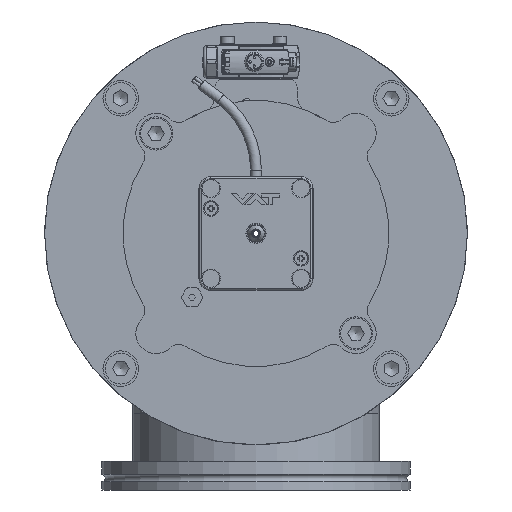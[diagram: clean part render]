
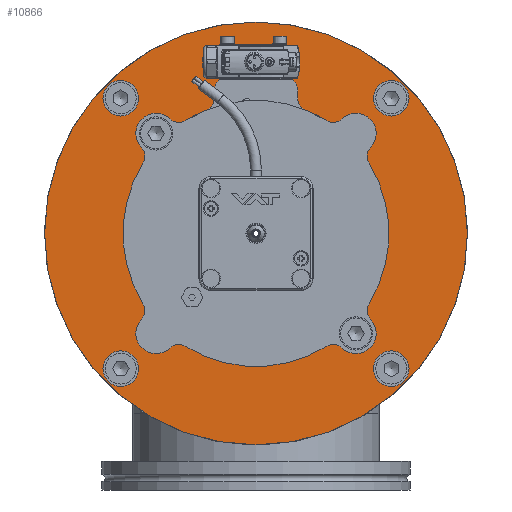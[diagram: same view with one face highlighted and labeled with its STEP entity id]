
A CAD part, left-side view. The second image highlights one B-rep face of the part: STEP entity #10866.
In plain terms, the highlighted planar face has unit normal (-1, 0, 0).
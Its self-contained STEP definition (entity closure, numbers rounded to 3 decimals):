
#10866=ADVANCED_FACE('BCT_REF_156008',(#14004,#14005,#14006,#14007,#14008,
#14009,#14010,#14011,#14012,#14013),#11982,.F.);
#11982=PLANE('',#32337);
#12916=CIRCLE('',#32312,89.);
#12926=CIRCLE('',#32328,3.4);
#12927=CIRCLE('',#32329,3.4);
#12928=CIRCLE('',#32330,3.4);
#12929=CIRCLE('',#32331,3.4);
#12930=CIRCLE('',#32332,7.5);
#12931=CIRCLE('',#32333,7.5);
#12932=CIRCLE('',#32334,7.5);
#12933=CIRCLE('',#32335,7.5);
#12934=CIRCLE('',#32336,55.145);
#14004=FACE_BOUND('',#15250,.T.);
#14005=FACE_BOUND('',#15251,.T.);
#14006=FACE_BOUND('',#15252,.T.);
#14007=FACE_BOUND('',#15253,.T.);
#14008=FACE_BOUND('',#15254,.T.);
#14009=FACE_BOUND('',#15255,.T.);
#14010=FACE_BOUND('',#15256,.T.);
#14011=FACE_BOUND('',#15257,.T.);
#14012=FACE_BOUND('',#15258,.T.);
#14013=FACE_BOUND('',#15259,.T.);
#15250=EDGE_LOOP('',(#18984));
#15251=EDGE_LOOP('',(#18985));
#15252=EDGE_LOOP('',(#18986));
#15253=EDGE_LOOP('',(#18987));
#15254=EDGE_LOOP('',(#18988));
#15255=EDGE_LOOP('',(#18989));
#15256=EDGE_LOOP('',(#18990));
#15257=EDGE_LOOP('',(#18991));
#15258=EDGE_LOOP('',(#18992));
#15259=EDGE_LOOP('',(#18993));
#18984=ORIENTED_EDGE('',*,*,#26115,.T.);
#18985=ORIENTED_EDGE('',*,*,#26116,.T.);
#18986=ORIENTED_EDGE('',*,*,#26117,.T.);
#18987=ORIENTED_EDGE('',*,*,#26118,.T.);
#18988=ORIENTED_EDGE('',*,*,#26119,.T.);
#18989=ORIENTED_EDGE('',*,*,#26120,.T.);
#18990=ORIENTED_EDGE('',*,*,#26121,.T.);
#18991=ORIENTED_EDGE('',*,*,#26122,.T.);
#18992=ORIENTED_EDGE('',*,*,#26123,.T.);
#18993=ORIENTED_EDGE('',*,*,#26095,.T.);
#23529=VERTEX_POINT('',#46088);
#23544=VERTEX_POINT('',#46141);
#23545=VERTEX_POINT('',#46143);
#23546=VERTEX_POINT('',#46145);
#23547=VERTEX_POINT('',#46147);
#23548=VERTEX_POINT('',#46149);
#23549=VERTEX_POINT('',#46151);
#23550=VERTEX_POINT('',#46153);
#23551=VERTEX_POINT('',#46155);
#23552=VERTEX_POINT('',#46157);
#26095=EDGE_CURVE('',#23529,#23529,#12916,.T.);
#26115=EDGE_CURVE('',#23544,#23544,#12926,.T.);
#26116=EDGE_CURVE('',#23545,#23545,#12927,.T.);
#26117=EDGE_CURVE('',#23546,#23546,#12928,.T.);
#26118=EDGE_CURVE('',#23547,#23547,#12929,.T.);
#26119=EDGE_CURVE('BCT_REF_155885',#23548,#23548,#12930,.T.);
#26120=EDGE_CURVE('',#23549,#23549,#12931,.T.);
#26121=EDGE_CURVE('',#23550,#23550,#12932,.T.);
#26122=EDGE_CURVE('',#23551,#23551,#12933,.T.);
#26123=EDGE_CURVE('BCT_REF_156011',#23552,#23552,#12934,.T.);
#32312=AXIS2_PLACEMENT_3D('',#46087,#36617,#36618);
#32328=AXIS2_PLACEMENT_3D('',#46140,#36657,#36658);
#32329=AXIS2_PLACEMENT_3D('',#46142,#36659,#36660);
#32330=AXIS2_PLACEMENT_3D('',#46144,#36661,#36662);
#32331=AXIS2_PLACEMENT_3D('',#46146,#36663,#36664);
#32332=AXIS2_PLACEMENT_3D('',#46148,#36665,#36666);
#32333=AXIS2_PLACEMENT_3D('',#46150,#36667,#36668);
#32334=AXIS2_PLACEMENT_3D('',#46152,#36669,#36670);
#32335=AXIS2_PLACEMENT_3D('',#46154,#36671,#36672);
#32336=AXIS2_PLACEMENT_3D('',#46156,#36673,#36674);
#32337=AXIS2_PLACEMENT_3D('',#46158,#36675,#36676);
#36617=DIRECTION('',(-1.,0.,0.));
#36618=DIRECTION('',(0.,0.,1.));
#36657=DIRECTION('',(1.,0.,0.));
#36658=DIRECTION('',(0.,-1.,0.));
#36659=DIRECTION('',(1.,0.,0.));
#36660=DIRECTION('',(0.,0.,1.));
#36661=DIRECTION('',(1.,0.,0.));
#36662=DIRECTION('',(0.,1.,0.));
#36663=DIRECTION('',(1.,0.,0.));
#36664=DIRECTION('',(0.,0.,-1.));
#36665=DIRECTION('',(1.,0.,0.));
#36666=DIRECTION('',(0.,-1.,0.));
#36667=DIRECTION('',(1.,0.,0.));
#36668=DIRECTION('',(0.,0.,1.));
#36669=DIRECTION('',(1.,0.,0.));
#36670=DIRECTION('',(0.,1.,0.));
#36671=DIRECTION('',(1.,0.,0.));
#36672=DIRECTION('',(0.,0.,-1.));
#36673=DIRECTION('',(1.,0.,0.));
#36674=DIRECTION('',(0.,0.,-1.));
#36675=DIRECTION('',(1.,0.,0.));
#36676=DIRECTION('',(0.,0.,-1.));
#46087=CARTESIAN_POINT('',(0.,0.,0.));
#46088=CARTESIAN_POINT('',(0.,0.,89.));
#46140=CARTESIAN_POINT('',(0.,-42.073,-42.073));
#46141=CARTESIAN_POINT('',(0.,-45.473,-42.073));
#46142=CARTESIAN_POINT('',(0.,-42.073,42.073));
#46143=CARTESIAN_POINT('',(0.,-42.073,45.473));
#46144=CARTESIAN_POINT('',(0.,42.073,42.073));
#46145=CARTESIAN_POINT('',(0.,45.473,42.073));
#46146=CARTESIAN_POINT('',(0.,42.073,-42.073));
#46147=CARTESIAN_POINT('',(0.,42.073,-45.473));
#46148=CARTESIAN_POINT('',(0.,56.922,-56.922));
#46149=CARTESIAN_POINT('',(0.,49.422,-56.922));
#46150=CARTESIAN_POINT('',(0.,-56.922,-56.922));
#46151=CARTESIAN_POINT('',(0.,-56.922,-49.422));
#46152=CARTESIAN_POINT('',(0.,-56.922,56.922));
#46153=CARTESIAN_POINT('',(0.,-49.422,56.922));
#46154=CARTESIAN_POINT('',(0.,56.922,56.922));
#46155=CARTESIAN_POINT('',(0.,56.922,49.422));
#46156=CARTESIAN_POINT('',(0.,0.,0.));
#46157=CARTESIAN_POINT('',(0.,0.,-55.145));
#46158=CARTESIAN_POINT('',(0.,89.,0.));
